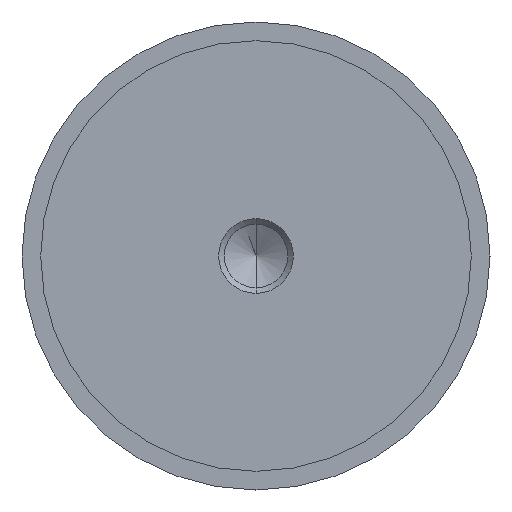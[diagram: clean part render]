
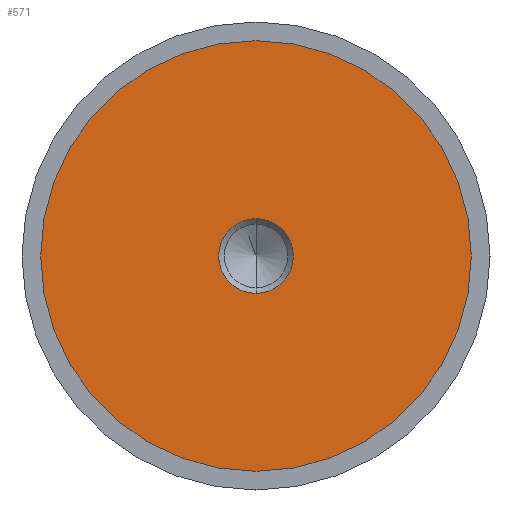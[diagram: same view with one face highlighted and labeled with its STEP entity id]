
A CAD part, left-side view. The second image highlights one B-rep face of the part: STEP entity #571.
In plain terms, the highlighted planar face has unit normal (-1, 0, 0).
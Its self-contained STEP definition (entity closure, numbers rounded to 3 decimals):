
#53 = EDGE_LOOP ( 'NONE', ( #80, #337 ) ) ;
#55 = CARTESIAN_POINT ( 'NONE',  ( -19.99, 0., -34.5 ) ) ;
#80 = ORIENTED_EDGE ( 'NONE', *, *, #522, .T. ) ;
#81 = DIRECTION ( 'NONE',  ( -1., 0., 0. ) ) ;
#108 = VERTEX_POINT ( 'NONE', #590 ) ;
#166 = DIRECTION ( 'NONE',  ( 0., 0., -1. ) ) ;
#191 = CIRCLE ( 'NONE', #206, 5.99 ) ;
#206 = AXIS2_PLACEMENT_3D ( 'NONE', #466, #693, #560 ) ;
#215 = ORIENTED_EDGE ( 'NONE', *, *, #398, .T. ) ;
#296 = FACE_BOUND ( 'NONE', #538, .T. ) ;
#302 = CIRCLE ( 'NONE', #734, 34.5 ) ;
#305 = CARTESIAN_POINT ( 'NONE',  ( -19.99, 0., -5.99 ) ) ;
#333 = CARTESIAN_POINT ( 'NONE',  ( -19.99, 0., 34.5 ) ) ;
#337 = ORIENTED_EDGE ( 'NONE', *, *, #672, .T. ) ;
#341 = DIRECTION ( 'NONE',  ( 0., 0., -1. ) ) ;
#350 = DIRECTION ( 'NONE',  ( 1., 0., 0. ) ) ;
#358 = VERTEX_POINT ( 'NONE', #305 ) ;
#365 = CIRCLE ( 'NONE', #480, 5.99 ) ;
#372 = FACE_OUTER_BOUND ( 'NONE', #53, .T. ) ;
#398 = EDGE_CURVE ( 'NONE', #358, #108, #365, .T. ) ;
#462 = VERTEX_POINT ( 'NONE', #55 ) ;
#465 = VERTEX_POINT ( 'NONE', #333 ) ;
#466 = CARTESIAN_POINT ( 'NONE',  ( -19.99, 0., 0. ) ) ;
#480 = AXIS2_PLACEMENT_3D ( 'NONE', #671, #532, #341 ) ;
#491 = EDGE_CURVE ( 'NONE', #108, #358, #191, .T. ) ;
#498 = DIRECTION ( 'NONE',  ( 0., 0., 1. ) ) ;
#522 = EDGE_CURVE ( 'NONE', #465, #462, #668, .T. ) ;
#532 = DIRECTION ( 'NONE',  ( 1., 0., 0. ) ) ;
#538 = EDGE_LOOP ( 'NONE', ( #601, #215 ) ) ;
#542 = CARTESIAN_POINT ( 'NONE',  ( -19.99, 0., 0. ) ) ;
#560 = DIRECTION ( 'NONE',  ( 0., 0., -1. ) ) ;
#571 = ADVANCED_FACE ( 'NONE', ( #296, #372 ), #777, .F. ) ;
#579 = CARTESIAN_POINT ( 'NONE',  ( -19.99, 0., 0. ) ) ;
#590 = CARTESIAN_POINT ( 'NONE',  ( -19.99, 0., 5.99 ) ) ;
#601 = ORIENTED_EDGE ( 'NONE', *, *, #491, .T. ) ;
#638 = DIRECTION ( 'NONE',  ( 0., 0., 1. ) ) ;
#668 = CIRCLE ( 'NONE', #700, 34.5 ) ;
#671 = CARTESIAN_POINT ( 'NONE',  ( -19.99, 0., 0. ) ) ;
#672 = EDGE_CURVE ( 'NONE', #462, #465, #302, .T. ) ;
#693 = DIRECTION ( 'NONE',  ( 1., 0., 0. ) ) ;
#700 = AXIS2_PLACEMENT_3D ( 'NONE', #542, #81, #498 ) ;
#724 = DIRECTION ( 'NONE',  ( -1., 0., 0. ) ) ;
#734 = AXIS2_PLACEMENT_3D ( 'NONE', #579, #724, #638 ) ;
#746 = AXIS2_PLACEMENT_3D ( 'NONE', #771, #350, #166 ) ;
#771 = CARTESIAN_POINT ( 'NONE',  ( -19.99, 34.5, 0. ) ) ;
#777 = PLANE ( 'NONE',  #746 ) ;
